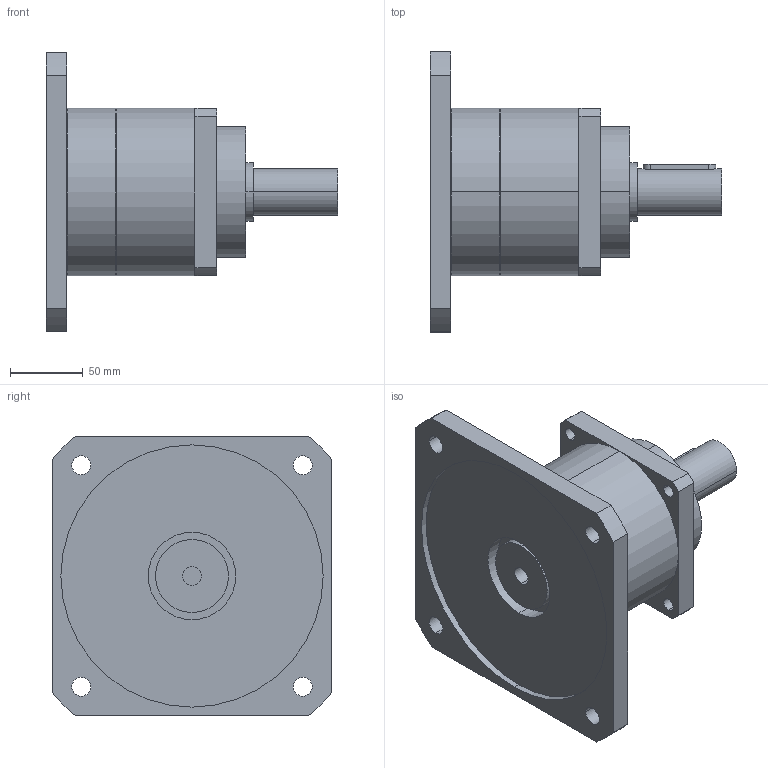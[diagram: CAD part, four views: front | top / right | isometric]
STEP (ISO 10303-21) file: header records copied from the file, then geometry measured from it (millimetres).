
FILE_DESCRIPTION(('CoCreate Modeling STEP Export'),'2;1');
FILE_NAME('GPT120_ig-3-4-5-7-10_32_B5A_12.7_P09.stp','2015-02-04T16:06:52',(''),(''),'CoCreate Modeling STEP processor for AP214 (Solid Model)','CoCreate Modeling 16.00C 25-Feb-2009 (C) Parametric Technology GmbH','');
FILE_SCHEMA(('AUTOMOTIVE_DESIGN { 1 0 10303 214 1 1 1 1 }'));
Length unit declared in the file: millimetre
Products named in the file (2): GPT120_ig-3-4-5-7-10_32_B5A_12.7_P09
Assembly tree (1 placements, depth 2):
  GPT120_ig-3-4-5-7-10_32_B5A_12.7_P09
    GPT120_ig-3-4-5-7-10_32_B5A_12.7_P09
Bounding box: 200 x 192 x 192 mm (x, y, z)
Volume: 1657305.1 mm3; surface area: 149993 mm2
Topology: 1 solids, 1 shells, 77 faces, 206 edges, 141 vertices
Faces by surface type: cylinder 46, plane 27, cone 4
Entity records: 2578 total; most frequent: CARTESIAN_POINT 761, ORIENTED_EDGE 412, DIRECTION 320, EDGE_CURVE 206, VERTEX_POINT 141, AXIS2_PLACEMENT_3D 118, EDGE_LOOP 103, VECTOR 84
